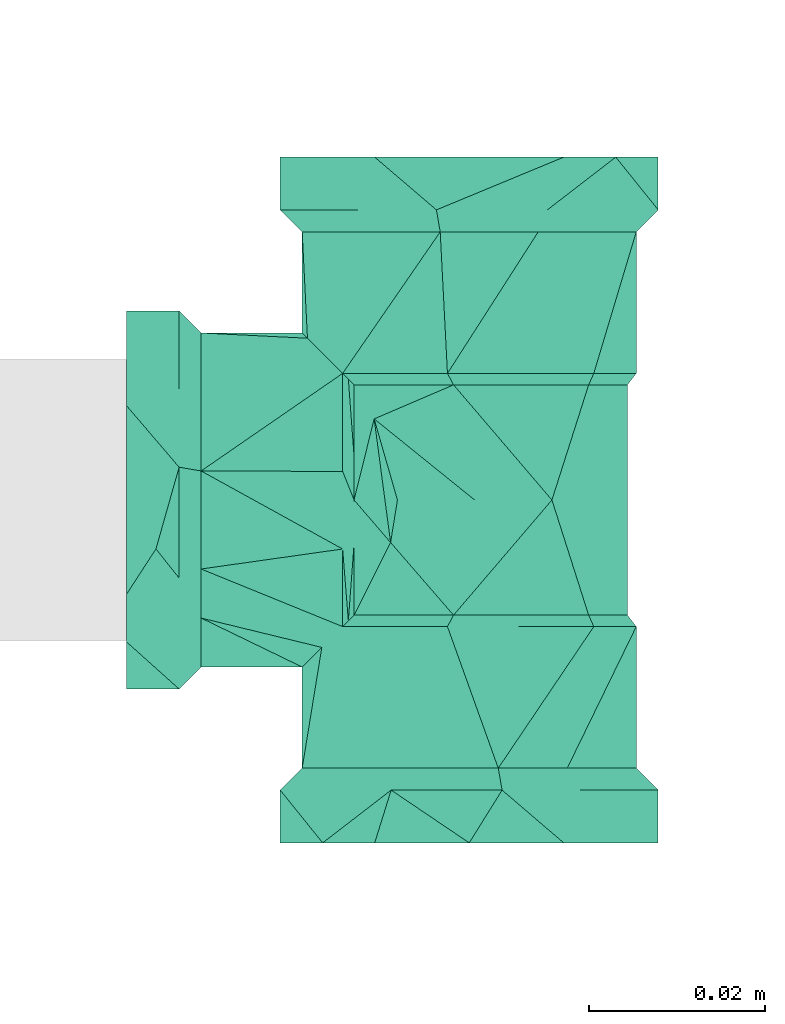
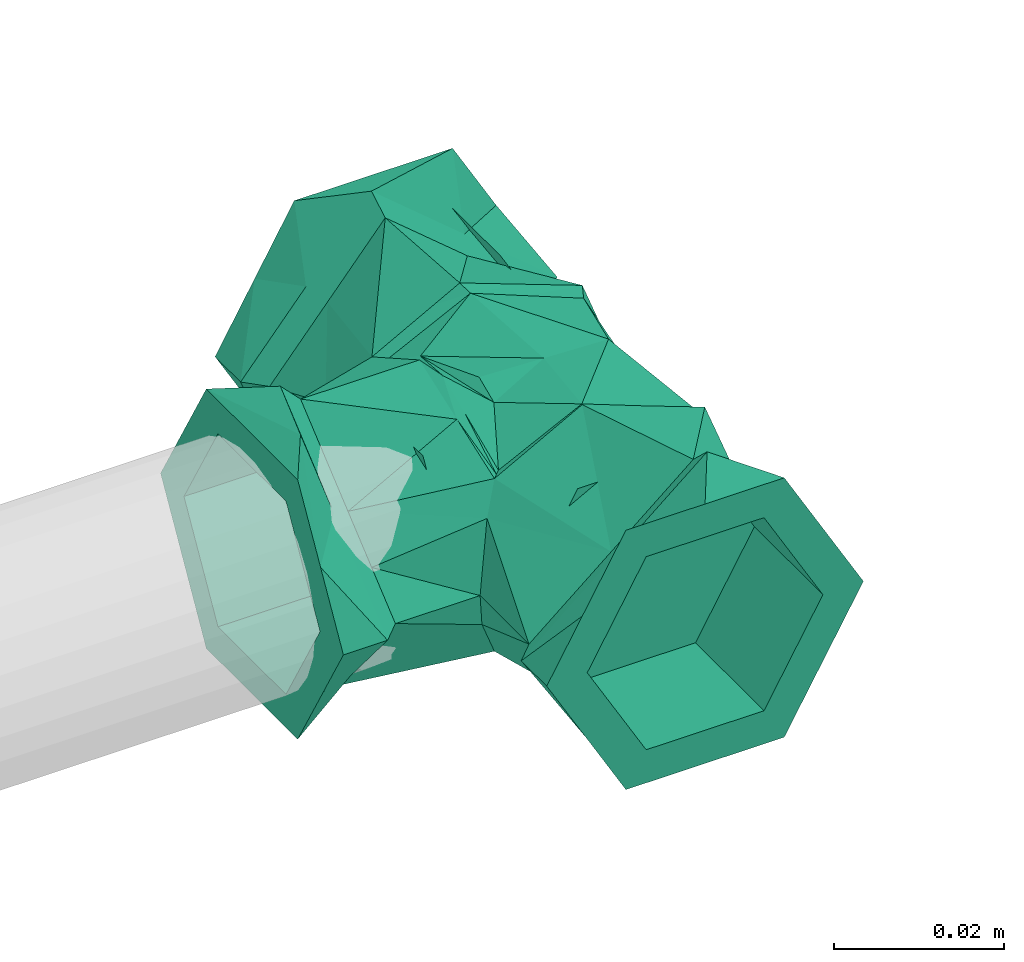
# One storey, part 61 of 589: 1 flow fitting.
"""IFC2X3 building model written with IfcOpenShell, lengths in millimetres."""

from ifc_helpers import new_model, entity, si_unit, converted_unit, derived_unit, direction, frame, origin, place, context, subcontext, project, spatial, faceted_brep, source, transform, mapped, material, type_object, type_shapes, element, save


model = new_model("IFC2X3")

# Units and contexts
model_context = context("Model", 3, precision=0.01, world=origin(), true_north=direction((6.123031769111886e-17, 1.0)))
body_context = subcontext(model_context, "Body", "Model", "MODEL_VIEW")
ifc_project = project(units=[si_unit("LENGTHUNIT", "METRE", prefix="MILLI"), si_unit("AREAUNIT", "SQUARE_METRE"), si_unit("VOLUMEUNIT", "CUBIC_METRE"), converted_unit("PLANEANGLEUNIT", "DEGREE", entity("IfcRatioMeasure", 0.017453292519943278), si_unit("PLANEANGLEUNIT", "RADIAN"), dimensions=[0, 0, 0, 0, 0, 0, 0]), si_unit("MASSUNIT", "GRAM", prefix="KILO"), derived_unit("MASSDENSITYUNIT", [(si_unit("MASSUNIT", "GRAM", prefix="KILO"), 1), (si_unit("LENGTHUNIT", "METRE"), -3)]), derived_unit("IONCONCENTRATIONUNIT", [(si_unit("MASSUNIT", "GRAM", prefix="KILO"), 1), (si_unit("LENGTHUNIT", "METRE"), -3)]), derived_unit("MOMENTOFINERTIAUNIT", [(si_unit("LENGTHUNIT", "METRE"), 4)]), si_unit("TIMEUNIT", "SECOND"), si_unit("FREQUENCYUNIT", "HERTZ"), si_unit("THERMODYNAMICTEMPERATUREUNIT", "DEGREE_CELSIUS"), derived_unit("THERMALTRANSMITTANCEUNIT", [(si_unit("MASSUNIT", "GRAM", prefix="KILO"), 1), (si_unit("THERMODYNAMICTEMPERATUREUNIT", "KELVIN"), -1), (si_unit("TIMEUNIT", "SECOND"), -3)]), derived_unit("THERMALCONDUCTANCEUNIT", [(si_unit("MASSUNIT", "GRAM", prefix="KILO"), 1), (si_unit("THERMODYNAMICTEMPERATUREUNIT", "KELVIN"), -1), (si_unit("TIMEUNIT", "SECOND"), -3), (si_unit("LENGTHUNIT", "METRE"), 1)]), derived_unit("VOLUMETRICFLOWRATEUNIT", [(si_unit("LENGTHUNIT", "METRE"), 3), (si_unit("TIMEUNIT", "SECOND"), -1)]), derived_unit("MASSFLOWRATEUNIT", [(si_unit("MASSUNIT", "GRAM", prefix="KILO"), 1), (si_unit("TIMEUNIT", "SECOND"), -1)]), derived_unit("ROTATIONALFREQUENCYUNIT", [(si_unit("TIMEUNIT", "SECOND"), -1)]), si_unit("ELECTRICCURRENTUNIT", "AMPERE"), si_unit("ELECTRICVOLTAGEUNIT", "VOLT"), si_unit("POWERUNIT", "WATT"), si_unit("FORCEUNIT", "NEWTON", prefix="KILO"), si_unit("ILLUMINANCEUNIT", "LUX"), si_unit("LUMINOUSFLUXUNIT", "LUMEN"), si_unit("LUMINOUSINTENSITYUNIT", "CANDELA"), derived_unit("USERDEFINED", [(si_unit("MASSUNIT", "GRAM", prefix="KILO"), -1), (si_unit("LENGTHUNIT", "METRE"), -2), (si_unit("TIMEUNIT", "SECOND"), 3), (si_unit("LUMINOUSFLUXUNIT", "LUMEN"), 1)]), derived_unit("USERDEFINED", [(si_unit("MASSUNIT", "GRAM", prefix="KILO"), 1), (si_unit("TIMEUNIT", "SECOND"), -3), (si_unit("LENGTHUNIT", "METRE"), 3), (si_unit("ELECTRICCURRENTUNIT", "AMPERE"), -2)]), derived_unit("SOUNDPOWERUNIT", [(si_unit("MASSUNIT", "GRAM", prefix="KILO"), 1), (si_unit("TIMEUNIT", "SECOND"), -3), (si_unit("LENGTHUNIT", "METRE"), 2)]), derived_unit("SOUNDPRESSUREUNIT", [(si_unit("MASSUNIT", "GRAM", prefix="KILO"), 1), (si_unit("LENGTHUNIT", "METRE"), -1), (si_unit("TIMEUNIT", "SECOND"), -2)]), derived_unit("LINEARVELOCITYUNIT", [(si_unit("LENGTHUNIT", "METRE"), 1), (si_unit("TIMEUNIT", "SECOND"), -1)]), si_unit("PRESSUREUNIT", "PASCAL"), derived_unit("USERDEFINED", [(si_unit("MASSUNIT", "GRAM", prefix="KILO"), 1), (si_unit("LENGTHUNIT", "METRE"), -2), (si_unit("TIMEUNIT", "SECOND"), -2)]), derived_unit("LINEARFORCEUNIT", [(si_unit("MASSUNIT", "GRAM", prefix="KILO"), 1), (si_unit("TIMEUNIT", "SECOND"), -2)]), derived_unit("PLANARFORCEUNIT", [(si_unit("MASSUNIT", "GRAM", prefix="KILO"), 1), (si_unit("LENGTHUNIT", "METRE"), -1), (si_unit("TIMEUNIT", "SECOND"), -2)]), derived_unit("SPECIFICHEATCAPACITYUNIT", [(si_unit("THERMODYNAMICTEMPERATUREUNIT", "KELVIN"), -1), (si_unit("LENGTHUNIT", "METRE"), 2), (si_unit("TIMEUNIT", "SECOND"), -2)]), derived_unit("HEATINGVALUEUNIT", [(si_unit("LENGTHUNIT", "METRE"), 2), (si_unit("TIMEUNIT", "SECOND"), -2)]), derived_unit("VAPORPERMEABILITYUNIT", [(si_unit("LENGTHUNIT", "METRE"), -1), (si_unit("TIMEUNIT", "SECOND"), 1)]), derived_unit("DYNAMICVISCOSITYUNIT", [(si_unit("MASSUNIT", "GRAM", prefix="KILO"), 1), (si_unit("TIMEUNIT", "SECOND"), -1), (si_unit("LENGTHUNIT", "METRE"), -1)]), derived_unit("THERMALEXPANSIONCOEFFICIENTUNIT", [(si_unit("THERMODYNAMICTEMPERATUREUNIT", "KELVIN"), -1)]), derived_unit("MODULUSOFELASTICITYUNIT", [(si_unit("MASSUNIT", "GRAM", prefix="KILO"), 1), (si_unit("LENGTHUNIT", "METRE"), -1), (si_unit("TIMEUNIT", "SECOND"), -2)]), derived_unit("ISOTHERMALMOISTURECAPACITYUNIT", [(si_unit("LENGTHUNIT", "METRE"), 3), (si_unit("MASSUNIT", "GRAM", prefix="KILO"), -1)]), derived_unit("MOISTUREDIFFUSIVITYUNIT", [(si_unit("TIMEUNIT", "SECOND"), -1), (si_unit("LENGTHUNIT", "METRE"), 2)])], contexts=[model_context])

# Site, building, storey
site_placement = place(None, origin())
site = spatial("IfcSite", under=ifc_project, at=site_placement, Name="Default", CompositionType="ELEMENT")
building_placement = place(site_placement, origin())
building = spatial("IfcBuilding", under=site, at=building_placement, CompositionType="ELEMENT")
storey_placement = place(building_placement, frame((0.0, 0.0, 100.0)))
storey = spatial("IfcBuildingStorey", under=building, at=storey_placement, Name="TÉRREO", CompositionType="ELEMENT", Elevation=100.0)

# Flow fitting
ifc_material = material(Name="PVC Marrom")
pipe_fitting_type = type_object("IfcPipeFittingType", Name="PVC Marrom Soldável_Tê e Tê de Reducão_Rodrigo MEP:Tê", PredefinedType="NOTDEFINED", material=ifc_material)
shared_shape = source(origin(), body_context, "Body", "Brep", [
    faceted_brep([(10.749999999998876, -39.0, -18.619546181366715), (16.0, -39.0, 0.0), (12.0, -39.0, -6.928203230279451), (16.66854307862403, -39.0, -8.36832886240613), (8.0, -39.0, -13.856406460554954), (0.0, -39.0, -13.856406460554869), (-8.0, -39.0, -13.856406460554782), (0.0, -39.0, -18.619546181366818), (21.500000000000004, -39.0, 0.0), (11.832084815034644, -39.0, 7.219040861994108), (8.0, -39.0, 13.856406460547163), (16.12500000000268, -39.0, 9.309773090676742), (10.750000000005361, -39.0, 18.619546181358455), (0.0, -39.0, 13.856406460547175), (-8.0, -39.0, 13.856406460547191), (0.0, -39.0, 18.61954618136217), (-10.749999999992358, -39.0, 18.61954618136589), (-16.668543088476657, -39.0, 8.368328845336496), (-21.500000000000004, -39.0, 0.0), (-12.0, -39.0, 6.928203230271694), (-16.0, -39.0, 0.0), (-16.1249999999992, -39.0, -9.309773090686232), (-10.749999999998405, -39.0, -18.619546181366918), (-11.832084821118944, -39.0, -7.219040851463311), (-12.615537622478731, -33.0, 10.586891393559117), (-3.7310752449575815, -33.0, 21.17378278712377), (5.5663459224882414, -35.634400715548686, 20.76693990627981), (-21.499999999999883, -33.0, 0.0), (21.499999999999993, -33.0, 0.0), (8.884462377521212, -33.0, 10.586891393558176), (12.618193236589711, -33.0, -10.586423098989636), (3.7363864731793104, -33.0, -21.172846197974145), (-5.562438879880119, -35.63453199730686, -20.767986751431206), (-8.881806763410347, -33.0, -10.586423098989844), (-12.0, -33.0, -6.928203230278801), (-8.0, -33.0, -13.856406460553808), (-16.0, -33.0, 0.0), (-16.0, -30.500000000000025, 0.0), (-11.832084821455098, -30.50000000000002, -7.219040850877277), (-12.0, -30.50000000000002, -6.928203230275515), (-16.0, -20.4, 0.0), (-8.0, -30.50000000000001, -13.856406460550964), (-11.832084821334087, -20.4, -7.219040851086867), (-8.0, -20.4, -13.856406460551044), (8.0, -33.0, -13.856406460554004), (0.0, -33.0, -13.856406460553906), (8.0, -30.499999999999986, -13.856406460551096), (0.0, -30.499999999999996, -13.85640646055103), (8.0, -20.4, -13.85640646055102), (0.0, -20.4, -13.856406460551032), (-22.899999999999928, -8.0, -13.856406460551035), (-22.899999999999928, 0.0, -13.856406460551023), (-30.5, 0.0, -13.856406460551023), (-30.5, -8.0, -13.856406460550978), (-30.5, 8.0, -13.856406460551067), (-22.899999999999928, 8.0, -13.85640646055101), (-39.0, 8.0, -13.856406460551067), (-39.0, 0.0, -13.856406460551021), (-39.0, -8.0, -13.856406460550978), (22.900000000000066, 8.0, -13.856406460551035), (22.900000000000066, 0.0, -13.856406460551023), (22.900000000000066, -8.0, -13.85640646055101), (39.0, -8.0, -13.856406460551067), (39.0, 0.0, -13.856406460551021), (39.0, 8.0, -13.856406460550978), (11.832084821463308, -33.0, -7.219040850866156), (16.0, -33.0, 0.0), (12.0, -30.49999999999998, -6.928203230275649), (16.0, -30.499999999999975, 0.0), (12.0, -20.4, -6.928203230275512), (16.0, -20.4, 0.0), (11.832084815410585, -30.499999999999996, -7.219040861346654), (12.0, -33.0, 6.928203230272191), (8.0, -33.0, 13.856406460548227), (11.832084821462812, -30.49999999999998, 7.219040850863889), (12.0, -30.49999999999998, 6.928203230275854), (8.0, -30.499999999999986, 13.856406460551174), (11.832084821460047, -20.4, 7.2190408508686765), (8.0, -20.4, 13.856406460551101), (-8.0, -33.0, 13.856406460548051), (0.0, -33.0, 13.856406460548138), (-8.0, -30.50000000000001, 13.856406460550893), (0.0, -30.5, 13.856406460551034), (-8.0, -20.4, 13.856406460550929), (0.0, -20.4, 13.856406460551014), (-22.899999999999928, 8.0, 13.85640646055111), (-22.899999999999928, 0.0, 13.856406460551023), (-30.5, 0.0, 13.856406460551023), (-30.5, 8.0, 13.85640646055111), (-30.5, -8.0, 13.856406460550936), (-22.899999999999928, -8.0, 13.856406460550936), (-39.0, -8.0, 13.856406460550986), (-39.0, 0.0, 13.856406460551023), (-39.0, 8.0, 13.856406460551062), (22.900000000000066, -8.0, 13.85640646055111), (22.900000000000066, 0.0, 13.856406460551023), (22.900000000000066, 8.0, 13.856406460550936), (39.0, 8.0, 13.856406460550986), (39.0, 0.0, 13.856406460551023), (39.0, -8.0, 13.856406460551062), (-11.832084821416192, -33.0, 7.2190408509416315), (-12.0, -30.50000000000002, 6.928203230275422), (-12.0, -20.4, 6.928203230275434), (-11.832084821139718, -30.500000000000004, 7.219040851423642), (-19.0, -30.50000000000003, 0.0), (-13.425692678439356, -30.499999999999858, -4.677928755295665), (-7.851385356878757, -30.49999999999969, -9.355857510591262), (-6.608146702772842, -30.49999999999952, -10.399176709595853), (3.297229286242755, -30.499999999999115, -18.71171502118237), (11.148614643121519, -30.499999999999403, -9.355857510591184), (19.0, -30.49999999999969, 0.0), (7.8490385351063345, -30.500000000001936, 9.355443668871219), (-3.3019229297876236, -30.500000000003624, 18.710887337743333), (-8.094202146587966, -30.50000000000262, 12.99886311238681), (-11.150961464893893, -30.50000000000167, 9.35544366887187), (13.424519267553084, -30.500000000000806, 4.677721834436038), (-3.2522100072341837, -14.400000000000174, 18.719592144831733), (-10.289812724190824, -14.400000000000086, 14.726976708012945), (-14.400000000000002, -14.40000000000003, 12.395160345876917), (19.0, -19.0, 0.0), (16.767135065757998, -16.767135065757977, 8.936620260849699), (-18.402193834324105, -18.402193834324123, 4.728558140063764), (-19.0, -19.0, 0.0), (14.400000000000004, -14.399999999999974, 12.395160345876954), (5.5738949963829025, -14.400000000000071, 15.557376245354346), (3.2522095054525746, -14.399999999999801, -18.71959223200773), (10.289812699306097, -14.39999999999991, -14.726976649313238), (14.399999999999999, -14.399999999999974, -12.395160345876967), (-16.76484456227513, -16.764844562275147, -8.940916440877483), (18.40219383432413, -18.402193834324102, -4.728558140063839), (-14.399999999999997, -14.400000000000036, -12.39516034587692), (-5.573895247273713, -14.39999999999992, -15.557376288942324), (13.749859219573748, -13.74985921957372, -12.376888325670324), (-4.945359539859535, -13.100000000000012, -15.865050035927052), (8.128165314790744e-06, -13.100000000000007, -18.0), (4.945360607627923, -13.099999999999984, -15.865053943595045), (13.100000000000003, -13.099999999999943, -12.344634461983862), (-13.749859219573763, -13.749859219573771, -12.376888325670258), (-13.1, -13.100000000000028, -12.344634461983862), (-13.74985921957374, -13.749859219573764, 12.376888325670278), (4.9453606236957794, -13.099999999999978, 15.86505393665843), (8.128165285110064e-06, -13.09999999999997, 18.0), (-4.945359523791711, -13.099999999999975, 15.865050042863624), (-13.1, -13.099999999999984, 12.344634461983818), (13.749859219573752, -13.749859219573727, 12.376888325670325), (13.099999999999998, -13.09999999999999, 12.344634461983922), (-4.833352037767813, -8.945106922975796, -15.620021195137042), (9.227915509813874, -10.815577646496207, -14.3883035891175), (0.0, -8.16558109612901, -16.04129936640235), (4.83335203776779, -8.945106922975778, 15.620021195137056), (-9.227915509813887, -10.81557764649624, 14.388303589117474), (0.0, -8.16558109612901, 16.041299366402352), (-22.899999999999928, -16.0, 0.0), (-22.899999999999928, -11.83208482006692, 7.21904085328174), (-22.899999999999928, 12.0, 6.928203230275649), (-22.899999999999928, 16.0, 0.0), (-22.899999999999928, 11.832084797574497, -7.219040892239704), (-22.899999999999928, -12.0, -6.928203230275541), (-30.5, -11.832084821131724, 7.2190408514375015), (-30.5, -12.0, 6.928203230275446), (-30.5, -16.0, 0.0), (-39.0, -12.0, 6.928203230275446), (-39.0, -16.0, 0.0), (39.0, -16.0, 0.0), (22.900000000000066, -16.0, 0.0), (22.900000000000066, -12.0, 6.928203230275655), (39.0, -11.857972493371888, 7.174202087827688), (-30.5, 16.0, 0.0), (-30.5, 12.0, 6.928203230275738), (-39.0, 16.0, 0.0), (-30.499999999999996, 11.83208482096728, 7.219040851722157), (-39.0, 11.832084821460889, 7.219040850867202), (22.900000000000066, 11.857972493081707, 7.1742020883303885), (22.900000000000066, 16.0, 0.0), (39.0, 16.0, 0.0), (39.0, 12.0, 6.928203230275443), (-30.5, 11.832084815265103, -7.2190408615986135), (-30.5, 12.0, -6.928203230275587), (-39.0, 12.0, -6.928203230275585), (22.900000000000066, 12.0, -6.92820323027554), (39.0, 11.857972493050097, -7.1742020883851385), (-30.5, -12.0, -6.9282032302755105), (-30.499999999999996, -11.832084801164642, -7.219040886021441), (-39.0, -11.832084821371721, -7.219040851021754), (22.900000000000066, -11.857972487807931, -7.174202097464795), (39.0, -12.0, -6.928203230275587), (0.0, 9.40740514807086, -15.34603298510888), (-13.099999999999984, 13.584749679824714, -11.8090887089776), (0.0, 13.70370257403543, -7.673016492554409), (-13.099999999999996, -1.7833793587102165, -17.911436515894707), (0.0, 0.6894868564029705, -15.690953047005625), (0.0, 18.0, 0.0), (13.1, 18.0, 0.0), (-13.1, 18.0, 0.0), (-13.099999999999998, 5.900685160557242, -14.860262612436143), (-13.099999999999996, 15.792374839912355, -5.904544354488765), (-13.10000000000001, -9.089444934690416, -14.317481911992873), (0.0, 0.6209120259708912, 15.693666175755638), (0.0, 9.407405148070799, 15.346032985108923), (-13.1, 13.58474967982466, 11.809088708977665), (-13.099999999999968, 5.900685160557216, 14.860262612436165), (-13.099999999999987, -1.783379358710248, 17.911436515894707), (0.0, 13.703702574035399, 7.673016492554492), (-13.09999999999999, 16.43471082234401, 4.186543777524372), (-13.099999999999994, -9.034124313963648, 14.344694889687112), (-14.40000000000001, 14.169641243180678, -12.657853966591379), (-14.400000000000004, 16.58482062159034, -6.328926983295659), (-14.400000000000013, 5.846235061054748, -15.747839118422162), (-14.400000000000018, -2.4771711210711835, -18.837824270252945), (-14.40000000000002, -6.105567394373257, -16.877170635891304), (-14.4, 19.0, 0.0), (-14.399999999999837, 5.846235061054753, 15.747839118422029), (-14.399999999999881, -2.4771711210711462, 18.83782427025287), (-14.399999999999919, -6.105567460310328, 16.877170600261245), (-14.399999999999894, 16.58482062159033, 6.32892698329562), (-14.399999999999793, 14.169641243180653, 12.657853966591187), (-30.5, 19.0, 0.0), (-30.50000000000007, 7.849038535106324, 9.355443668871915), (-30.500000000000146, -3.3019229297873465, 18.710887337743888), (-30.5, -19.0, 0.0), (-30.50000000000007, -11.150961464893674, 9.355443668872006), (-30.499999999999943, -7.851385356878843, -9.355857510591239), (-30.499999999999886, 3.297229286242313, -18.711715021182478), (-30.499999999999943, 11.148614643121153, -9.35585751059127), (-33.0, 9.159228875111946, -14.709239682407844), (-33.0, 12.618193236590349, -10.58642309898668), (-33.0, 21.500000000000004, 0.0), (-33.0, -8.881806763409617, -10.586423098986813), (-33.0, 3.7363864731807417, -21.172846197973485), (-33.0, -21.499999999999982, 0.0), (-33.0, -3.731075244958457, 21.17378278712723), (-33.0, -12.615537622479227, 10.586891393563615), (-33.0, 8.884462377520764, 10.586891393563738), (-33.0, 7.477639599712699, 11.76748951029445), (-39.0, -10.75000000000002, -18.619546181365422), (-39.0, -16.668543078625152, -8.36832886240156), (-39.0, 0.0, -18.61954618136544), (-39.0, -21.500000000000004, 0.0), (-39.0, -16.124999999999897, 9.309773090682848), (-39.0, -10.749999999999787, 18.619546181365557), (-39.0, 0.0, 18.61954618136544), (-39.0, 10.750000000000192, 18.619546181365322), (-39.0, 16.668543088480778, 8.368328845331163), (-39.0, 21.500000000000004, 0.0), (-39.0, 16.124999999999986, -9.309773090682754), (-39.0, 10.749999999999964, -18.619546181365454), (33.0, 21.50000000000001, 0.0), (39.0, 16.124999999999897, 9.309773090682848), (39.0, 21.500000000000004, 0.0), (33.0, -21.500000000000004, 0.0), (39.0, -21.500000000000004, 0.0), (39.0, -16.668543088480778, 8.368328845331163), (39.0, -16.124999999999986, -9.309773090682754), (39.0, 16.668543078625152, -8.36832886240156), (13.10000000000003, 13.584749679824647, -11.809088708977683), (13.099999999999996, 5.900685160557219, -14.860262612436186), (13.100000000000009, -1.7833793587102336, -17.911436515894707), (13.100000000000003, 16.434710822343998, -4.18654377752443), (13.100000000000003, -9.034124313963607, -14.34469488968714), (13.09999999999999, 13.584749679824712, 11.809088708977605), (13.100000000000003, -1.7833793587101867, 17.91143651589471), (13.100000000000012, 5.900685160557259, 14.860262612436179), (13.100000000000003, 15.792374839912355, 5.904544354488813), (13.100000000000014, -9.089444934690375, 14.31748191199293), (14.40000000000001, 5.84623506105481, -15.74783911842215), (14.40000000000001, -2.4771711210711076, -18.837824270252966), (14.400000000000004, -6.105567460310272, -16.877170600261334), (14.400000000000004, 16.584820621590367, -6.328926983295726), (14.40000000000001, 14.169641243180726, -12.657853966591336), (14.4, 19.0, 0.0), (14.400000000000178, 14.169641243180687, 12.657853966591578), (14.40000000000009, 16.584820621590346, 6.328926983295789), (14.40000000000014, 5.846235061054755, 15.747839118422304), (14.400000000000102, -2.477171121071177, 18.83782427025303), (14.40000000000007, -6.105567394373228, 16.877170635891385), (30.500000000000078, -7.849038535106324, 9.355443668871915), (30.500000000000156, 3.3019229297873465, 18.710887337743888), (30.5, -19.0, 0.0), (30.500000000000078, 11.150961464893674, 9.355443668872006), (30.5, 19.0, 0.0), (30.49999999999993, 7.851385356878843, -9.355857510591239), (30.499999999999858, -3.297229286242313, -18.711715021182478), (30.499999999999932, -11.148614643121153, -9.35585751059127), (33.0, -3.7310752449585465, -21.173782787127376), (33.0, -9.157756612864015, -14.707247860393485), (33.0, -12.61553762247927, -10.58689139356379), (33.0, 8.884462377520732, -10.586891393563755), (33.0, 3.7363864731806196, 21.17284619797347), (33.0, 9.159228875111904, 14.70923968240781), (33.0, 12.618193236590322, 10.586423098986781), (33.0, -8.881806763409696, 10.586423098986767), (39.0, 10.75000000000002, -18.619546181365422), (39.0, 0.0, -18.61954618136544), (39.0, 10.749999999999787, 18.619546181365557), (39.0, 0.0, 18.61954618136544), (39.0, -10.750000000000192, 18.619546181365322), (39.0, -10.749999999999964, -18.619546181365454)], [[[0, 1, 2]], [[1, 0, 3]], [[0, 2, 4]], [[0, 4, 5]], [[0, 5, 6]], [[6, 7, 0]], [[1, 3, 8]], [[8, 9, 1]], [[8, 10, 9]], [[10, 8, 11]], [[10, 11, 12]], [[12, 13, 10]], [[12, 14, 13]], [[14, 12, 15]], [[14, 15, 16]], [[14, 16, 17]], [[14, 17, 18]], [[18, 19, 14]], [[18, 20, 19]], [[20, 18, 21]], [[20, 21, 22]], [[22, 6, 23]], [[6, 22, 7]], [[22, 23, 20]], [[24, 16, 25]], [[16, 26, 25]], [[24, 27, 17]], [[27, 18, 17]], [[28, 11, 8]], [[26, 11, 29]], [[28, 29, 11]], [[25, 26, 29]], [[26, 16, 15, 12]], [[11, 26, 12]], [[16, 24, 17]], [[30, 0, 31]], [[0, 32, 31]], [[30, 28, 3]], [[28, 8, 3]], [[27, 21, 18]], [[32, 21, 33]], [[27, 33, 21]], [[31, 32, 33]], [[32, 0, 7, 22]], [[21, 32, 22]], [[0, 30, 3]], [[34, 23, 35]], [[23, 34, 20]], [[36, 20, 34]], [[37, 36, 34]], [[34, 35, 38]], [[34, 38, 39]], [[34, 39, 37]], [[40, 37, 39]], [[23, 6, 35]], [[41, 38, 35]], [[42, 38, 41]], [[43, 42, 41]], [[42, 39, 38]], [[39, 42, 40]], [[44, 45, 4]], [[46, 45, 44]], [[47, 45, 46]], [[48, 47, 46]], [[49, 47, 48]], [[41, 47, 49]], [[49, 43, 41]], [[47, 41, 35]], [[45, 35, 5]], [[35, 6, 5]], [[35, 45, 47]], [[5, 4, 45]], [[44, 45, 4]], [[46, 45, 44]], [[47, 45, 46]], [[48, 47, 46]], [[49, 47, 48]], [[41, 47, 49]], [[49, 43, 41]], [[47, 41, 35]], [[45, 35, 5]], [[35, 6, 5]], [[35, 45, 47]], [[5, 4, 45]], [[50, 51, 52]], [[52, 53, 50]], [[52, 51, 54]], [[54, 51, 55]], [[56, 52, 54]], [[57, 52, 56]], [[53, 52, 57]], [[57, 58, 53]], [[59, 60, 61, 62, 63, 64]], [[2, 65, 4]], [[65, 2, 66]], [[2, 1, 66]], [[67, 65, 66]], [[66, 68, 67]], [[69, 67, 68]], [[68, 70, 69]], [[69, 71, 67]], [[69, 48, 71]], [[46, 71, 48]], [[44, 65, 46]], [[65, 71, 46]], [[44, 4, 65]], [[65, 67, 71]], [[72, 9, 73]], [[9, 72, 1]], [[66, 1, 72]], [[68, 66, 72]], [[72, 73, 74]], [[72, 74, 75]], [[72, 75, 68]], [[70, 68, 75]], [[9, 10, 73]], [[76, 74, 73]], [[77, 74, 76]], [[78, 77, 76]], [[77, 75, 74]], [[75, 77, 70]], [[79, 80, 14]], [[81, 80, 79]], [[82, 80, 81]], [[83, 82, 81]], [[84, 82, 83]], [[76, 82, 84]], [[84, 78, 76]], [[82, 76, 73]], [[80, 73, 13]], [[73, 10, 13]], [[73, 80, 82]], [[13, 14, 80]], [[79, 80, 14]], [[81, 80, 79]], [[82, 80, 81]], [[83, 82, 81]], [[84, 82, 83]], [[76, 82, 84]], [[84, 78, 76]], [[82, 76, 73]], [[80, 73, 13]], [[73, 10, 13]], [[73, 80, 82]], [[13, 14, 80]], [[85, 86, 87]], [[87, 88, 85]], [[87, 86, 89]], [[89, 86, 90]], [[91, 87, 89]], [[92, 87, 91]], [[88, 87, 92]], [[92, 93, 88]], [[94, 95, 96, 97, 98, 99]], [[19, 100, 14]], [[100, 19, 36]], [[19, 20, 36]], [[101, 100, 36]], [[36, 37, 101]], [[102, 101, 37]], [[37, 40, 102]], [[102, 103, 101]], [[102, 83, 103]], [[81, 103, 83]], [[79, 100, 81]], [[100, 103, 81]], [[79, 14, 100]], [[100, 101, 103]], [[33, 104, 105, 106, 107]], [[31, 107, 108]], [[31, 108, 109]], [[109, 30, 31]], [[110, 30, 109]], [[107, 31, 33]], [[28, 30, 110]], [[104, 33, 27]], [[110, 29, 28]], [[111, 25, 29]], [[25, 111, 112]], [[25, 113, 24]], [[104, 27, 24]], [[113, 25, 112]], [[24, 113, 114, 104]], [[29, 110, 115, 111]], [[112, 116, 117, 118]], [[115, 119, 120]], [[121, 122, 104]], [[121, 104, 114]], [[111, 123, 124]], [[114, 118, 121]], [[118, 114, 113, 112]], [[120, 111, 115]], [[112, 124, 116]], [[124, 112, 111]], [[115, 110, 119]], [[111, 120, 123]], [[108, 125, 126, 127]], [[105, 122, 128]], [[129, 119, 110]], [[129, 110, 109]], [[106, 130, 131]], [[109, 127, 129]], [[108, 127, 109]], [[128, 106, 105]], [[108, 131, 125]], [[131, 108, 107, 106]], [[105, 104, 122]], [[106, 128, 130]], [[132, 127, 126]], [[133, 134, 131]], [[126, 125, 135]], [[135, 136, 132]], [[137, 133, 131]], [[137, 138, 133]], [[131, 134, 125]], [[134, 135, 125]], [[132, 126, 135]], [[131, 130, 137]], [[139, 118, 117]], [[140, 141, 124]], [[117, 116, 142]], [[142, 143, 139]], [[144, 140, 124]], [[144, 145, 140]], [[124, 141, 116]], [[141, 142, 116]], [[139, 117, 142]], [[124, 123, 144]], [[146, 134, 133, 138]], [[147, 146, 148]], [[147, 136, 135, 134]], [[147, 134, 146]], [[149, 141, 140, 145]], [[141, 149, 150]], [[150, 143, 142, 141]], [[150, 149, 151]], [[48, 69, 70, 77, 78, 84, 83, 102, 40, 42, 43, 49]], [[152, 153, 90, 86, 85, 154, 155, 156, 55, 51, 50, 157]], [[90, 153, 89]], [[153, 158, 89]], [[153, 159, 158]], [[159, 153, 152]], [[152, 160, 159]], [[161, 159, 160]], [[160, 162, 161]], [[161, 91, 158]], [[161, 158, 159]], [[89, 158, 91]], [[163, 164, 165, 94, 99, 166]], [[167, 155, 154]], [[154, 168, 167]], [[169, 167, 168]], [[154, 170, 168]], [[154, 85, 170]], [[88, 170, 85]], [[171, 170, 88]], [[93, 171, 88]], [[171, 168, 170]], [[168, 171, 169]], [[96, 172, 173, 174, 175, 97]], [[55, 156, 54]], [[156, 176, 54]], [[156, 177, 176]], [[177, 156, 155]], [[155, 167, 177]], [[178, 177, 167]], [[167, 169, 178]], [[178, 56, 176]], [[178, 176, 177]], [[54, 176, 56]], [[174, 173, 179, 59, 64, 180]], [[160, 152, 157]], [[157, 181, 160]], [[162, 160, 181]], [[157, 182, 181]], [[157, 50, 182]], [[53, 182, 50]], [[183, 182, 53]], [[58, 183, 53]], [[183, 181, 182]], [[181, 183, 162]], [[61, 184, 164, 163, 185, 62]], [[186, 187, 188]], [[189, 190, 146]], [[191, 192, 188, 193]], [[186, 189, 194, 187]], [[190, 148, 146]], [[188, 187, 195, 193]], [[146, 138, 196, 189]], [[189, 186, 190]], [[197, 150, 151]], [[198, 199, 200, 201]], [[202, 193, 203, 199]], [[204, 143, 150, 201]], [[198, 201, 197]], [[199, 198, 202]], [[150, 197, 201]], [[202, 192, 191, 193]], [[187, 205, 206]], [[205, 187, 194]], [[187, 206, 195]], [[207, 189, 208]], [[137, 209, 196]], [[193, 195, 210]], [[137, 130, 209]], [[196, 138, 137]], [[189, 207, 194]], [[208, 189, 209]], [[210, 195, 206]], [[205, 194, 207]], [[189, 196, 209]], [[201, 211, 212]], [[204, 201, 213]], [[204, 213, 139]], [[213, 201, 212]], [[199, 214, 215]], [[214, 199, 203]], [[215, 200, 199]], [[203, 210, 214]], [[139, 143, 204]], [[211, 201, 200]], [[215, 211, 200]], [[203, 193, 210]], [[213, 118, 139]], [[215, 216, 217]], [[217, 212, 211, 215]], [[218, 212, 217]], [[216, 215, 214, 210]], [[219, 121, 220]], [[118, 218, 220]], [[218, 118, 213, 212]], [[122, 121, 219]], [[118, 220, 121]], [[208, 221, 222]], [[122, 219, 128]], [[205, 222, 223]], [[128, 219, 221]], [[221, 208, 209, 130]], [[222, 205, 207, 208]], [[216, 210, 223]], [[223, 210, 206, 205]], [[221, 130, 128]], [[222, 224, 223]], [[223, 224, 225, 226]], [[222, 227, 228]], [[229, 221, 219]], [[226, 216, 223]], [[224, 222, 228]], [[227, 222, 221]], [[229, 227, 221]], [[218, 230, 231]], [[231, 220, 218]], [[217, 226, 232, 233]], [[218, 233, 230]], [[229, 220, 231]], [[233, 218, 217]], [[219, 220, 229]], [[226, 217, 216]], [[234, 162, 183]], [[162, 234, 235]], [[234, 183, 58]], [[234, 58, 57]], [[234, 57, 56]], [[56, 236, 234]], [[162, 235, 237]], [[237, 161, 162]], [[237, 91, 161]], [[91, 237, 238]], [[91, 238, 239]], [[239, 92, 91]], [[239, 93, 92]], [[93, 239, 240]], [[93, 240, 241]], [[93, 241, 242]], [[93, 242, 243]], [[243, 171, 93]], [[243, 169, 171]], [[169, 243, 244]], [[169, 244, 245]], [[245, 56, 178]], [[56, 245, 236]], [[245, 178, 169]], [[232, 242, 241]], [[232, 226, 242]], [[226, 243, 242]], [[246, 247, 248]], [[229, 238, 237]], [[249, 250, 251]], [[230, 239, 231]], [[231, 239, 238]], [[229, 231, 238]], [[230, 241, 240, 239]], [[241, 230, 233, 232]], [[227, 235, 234]], [[227, 229, 235]], [[229, 237, 235]], [[249, 252, 250]], [[226, 244, 243]], [[246, 248, 253]], [[245, 225, 224, 228]], [[225, 245, 244]], [[226, 225, 244]], [[227, 236, 228]], [[228, 236, 245]], [[227, 234, 236]], [[190, 147, 148]], [[186, 254, 255, 256]], [[188, 192, 257, 254]], [[258, 136, 147, 256]], [[186, 256, 190]], [[254, 186, 188]], [[147, 190, 256]], [[198, 259, 202]], [[260, 197, 149]], [[198, 260, 261, 259]], [[197, 151, 149]], [[202, 259, 262, 192]], [[149, 145, 263, 260]], [[260, 198, 197]], [[256, 264, 265]], [[258, 256, 266]], [[258, 266, 132]], [[266, 256, 265]], [[254, 267, 268]], [[267, 254, 257]], [[268, 255, 254]], [[257, 269, 267]], [[132, 136, 258]], [[264, 256, 255]], [[268, 264, 255]], [[257, 192, 269]], [[266, 127, 132]], [[259, 270, 271]], [[270, 259, 261]], [[259, 271, 262]], [[272, 260, 273]], [[144, 274, 263]], [[192, 262, 269]], [[144, 123, 274]], [[263, 145, 144]], [[260, 272, 261]], [[273, 260, 274]], [[269, 262, 271]], [[270, 261, 272]], [[260, 263, 274]], [[273, 275, 276]], [[119, 277, 120]], [[270, 276, 278]], [[120, 277, 275]], [[275, 273, 274, 123]], [[276, 270, 272, 273]], [[279, 269, 278]], [[278, 269, 271, 270]], [[275, 123, 120]], [[268, 279, 280]], [[280, 265, 264, 268]], [[281, 265, 280]], [[279, 268, 267, 269]], [[277, 129, 282]], [[127, 281, 282]], [[281, 127, 266, 265]], [[119, 129, 277]], [[127, 282, 129]], [[281, 283, 284, 285, 249, 277, 282]], [[281, 280, 279, 246, 286, 283]], [[276, 287, 288, 289, 246, 279, 278]], [[276, 275, 277, 249, 290, 287]], [[291, 174, 180]], [[174, 291, 253]], [[291, 180, 64]], [[291, 64, 63]], [[291, 63, 62]], [[62, 292, 291]], [[174, 253, 248]], [[248, 175, 174]], [[248, 97, 175]], [[97, 248, 247]], [[97, 247, 293]], [[293, 98, 97]], [[293, 99, 98]], [[99, 293, 294]], [[99, 294, 295]], [[99, 295, 251]], [[99, 251, 250]], [[250, 166, 99]], [[250, 163, 166]], [[163, 250, 252]], [[163, 252, 296]], [[296, 62, 185]], [[62, 296, 292]], [[296, 185, 163]], [[290, 251, 295]], [[290, 249, 251]], [[293, 289, 288, 287]], [[289, 293, 247]], [[246, 289, 247]], [[290, 294, 287]], [[287, 294, 293]], [[290, 295, 294]], [[286, 253, 291]], [[286, 246, 253]], [[296, 285, 284, 283]], [[285, 296, 252]], [[249, 285, 252]], [[283, 291, 292, 296]], [[283, 286, 291]], [[173, 172, 96, 95, 94, 165, 164, 184, 61, 60, 59, 179]]]),
])
type_shapes(pipe_fitting_type, [shared_shape])
flow_fitting_placement = place(storey_placement, frame((4017.5158682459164, -8050.83648067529, 3855.0), z_axis=(0.0, 0.0, 1.0), x_axis=(0.0, -1.0, 0.0)))
element("IfcFlowFitting", 1, at=flow_fitting_placement, inside=storey, type_object=pipe_fitting_type, material=ifc_material, Name="PVC Marrom Soldável_Tê e Tê de Reducão_Rodrigo MEP:Tê", ObjectType="PVC Marrom Soldável_Tê e Tê de Reducão_Rodrigo MEP:Tê", context=body_context, shape_type="MappedRepresentation", body=[
    mapped(shared_shape, transform((0.0, 0.0, 0.0), scale=1.0)),
])

save(model, "model.ifc")
